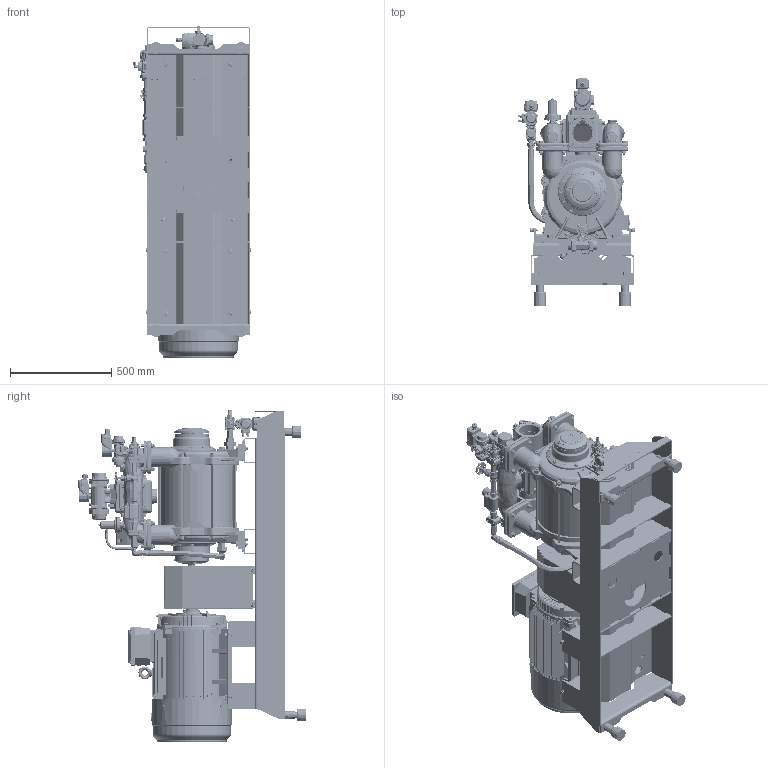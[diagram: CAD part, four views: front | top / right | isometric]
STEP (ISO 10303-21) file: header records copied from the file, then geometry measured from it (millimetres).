
FILE_DESCRIPTION(/* description */ (''),/* implementation_level */ '2;1');
FILE_NAME(/* name */ '1700121A.stp',/* time_stamp */ '2025-07-31T15:42:47+02:00',/* author */ ('JJ'),/* organization */ (''),/* preprocessor_version */ 'ST-DEVELOPER v20',/* originating_system */ 'Autodesk Inventor 2025',/* authorisation */ '');
FILE_SCHEMA (('AUTOMOTIVE_DESIGN { 1 0 10303 214 3 1 1 }'));
Products named in the file (91): 1700121; 932400048; 932300005; 932300001; 932400049; 910100155; 910000526; 910000297; 910000517; 1632204; 910100021; 1632205; 1632208; 910100161; 961000522; 910200008; 910000150; 1632212; 927000162-388 version 3; 925000873; 925000882; 925000882_part1; 925000882_part2; 925000878; 925000792; 1632216; 925000869; 925200610; 925000857; 910300370; 1632246; 910100125; 910300468; 1634666_Simplify; 927000134 OM1000 G2; 925100552; 925000865; 925000651; 1632298; 1632270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
Assembly tree (287 placements, depth 4):
  1700121
    932400048  x2
    932300005
    932300001
    932400049
    910100155  x4
    910000526  x4
    910100021  x12
    910000297  x4
    910000517  x4
    1632204  x4
    1632205  x4
    1632208  x4
    910100161  x4
    961000522  x4
    910200008  x4
    910000150  x4
    1632212
      925000873  x2
      925000878  x2
      925000882  x2
        925000882_part1
        925000882_part2
      927000162-388 version 3
    925000792
    1632216
      944600329
      944600328
      910100191  x4
      910000114  x4
      948000434
        948000434_part2
        948000434_part1
      915000241  x2
      925000725
      925000869
      925200610
    925000857  x4
    910300370  x4
    1632246  x2
    910100125  x4
    910300468  x4
    1634666_Simplify
    927000134 OM1000 G2
    925100552
    925000865
    925000651
    1632298
    1632270
    1619222_Simplify
    1619308
      910300079  x16
      910200013  x16
      910100013  x32
      910300073  x8
      1634827
        1634812
        922000267
      1634824  x3
        1634809
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Bounding box: 579.35 x 1127.35 x 1640.18 mm (x, y, z)
Volume: 108260690.7 mm3; surface area: 15350238.8 mm2
Topology: 484 solids, 495 shells, 29170 faces, 73347 edges, 46252 vertices
Faces by surface type: plane 12009, cylinder 6779, bspline 5070, cone 2773, torus 2260, sphere 279
Full cylindrical faces by diameter (mm): 0.8 x1, 0.847 x2, 0.857 x2, 1.656 x4, 1.676 x2, 1.7 x4, 1.8 x4, 2 x28, 2.2 x2, 2.5 x10, 3 x4, 3.2 x3, 3.3 x4, 3.6 x4, 4 x6, 4.134 x8, 4.2 x20, 4.3 x8, 4.33 x4, 4.45 x6, 4.567 x8, 4.917 x15, 5 x26, 5.3 x8, 5.589 x2, 5.6 x16, 6 x49, 6.25 x8, 6.4 x8, 6.5 x8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
Entity records: 911563 total; most frequent: CARTESIAN_POINT 478103, ORIENTED_EDGE 90994, DIRECTION 81682, EDGE_CURVE 45497, AXIS2_PLACEMENT_3D 30233, VERTEX_POINT 28757, LINE 21216, VECTOR 21216
